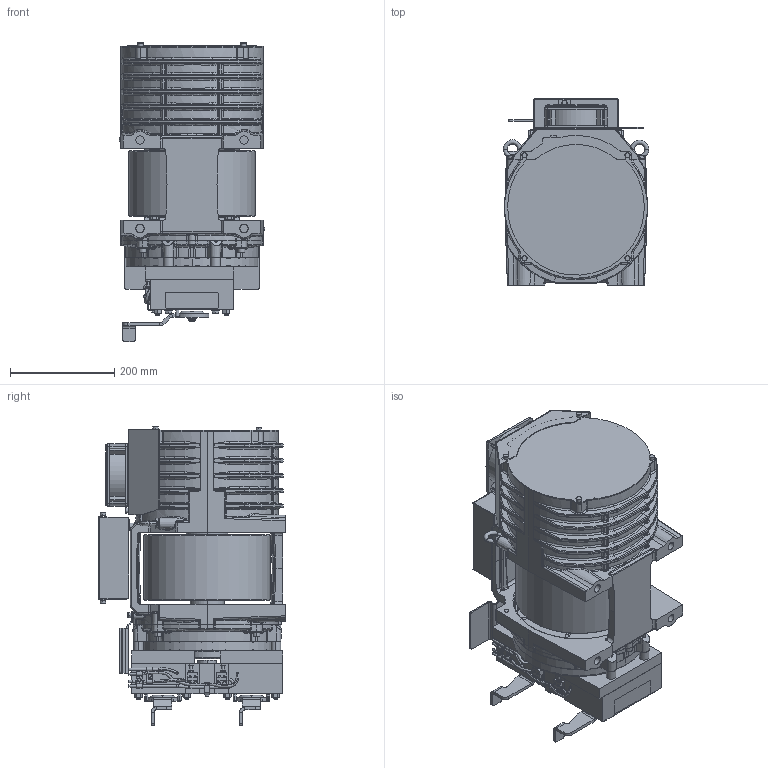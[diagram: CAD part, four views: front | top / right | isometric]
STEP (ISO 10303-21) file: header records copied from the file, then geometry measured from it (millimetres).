
FILE_DESCRIPTION((''),'2;1');
FILE_NAME('00349188_ASM','2019-06-03T',('polieridb'),('Sicor spa'),'CREO PARAMETRIC BY PTC INC, 2017170','CREO PARAMETRIC BY PTC INC, 2017170','');
FILE_SCHEMA(('CONFIG_CONTROL_DESIGN'));
Length unit declared in the file: millimetre
Products named in the file (3): 00332487_SW0001; 00280791; 00349188_ASM
Assembly tree (2 placements, depth 2):
  00349188_ASM
    00332487_SW0001
    00280791
Bounding box: 280 x 358 x 574.52 mm (x, y, z)
Volume: 2812227.3 mm3; surface area: 2070275.6 mm2
Topology: 1 solids, 172 shells, 3360 faces, 9161 edges, 5729 vertices
Faces by surface type: cylinder 940, bspline 893, plane 756, torus 381, cone 296, sphere 74, extrusion 13, revolution 7
Entity records: 196667 total; most frequent: CARTESIAN_POINT 122662, ORIENTED_EDGE 16296, DIRECTION 13087, EDGE_CURVE 9071, VERTEX_POINT 5729, AXIS2_PLACEMENT_3D 5257, B_SPLINE_CURVE_WITH_KNOTS 3735, EDGE_LOOP 3376
